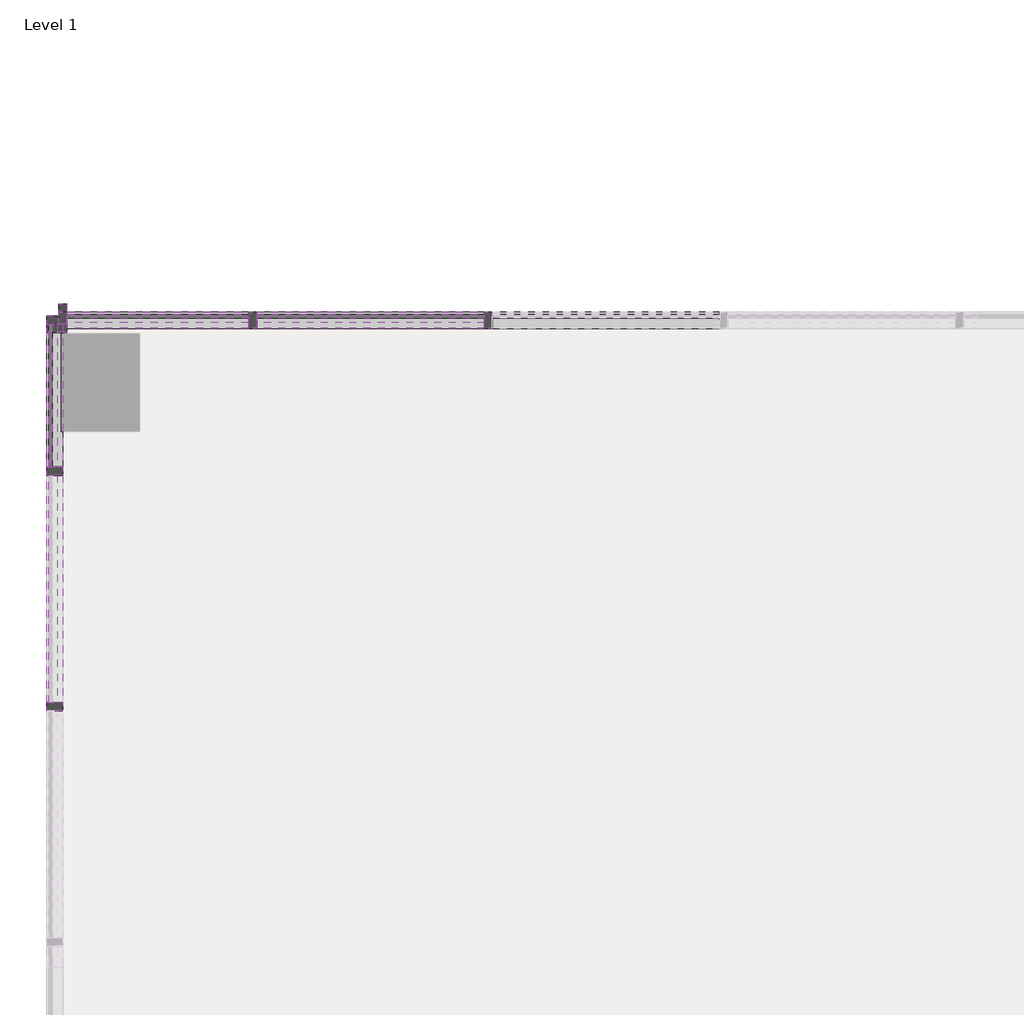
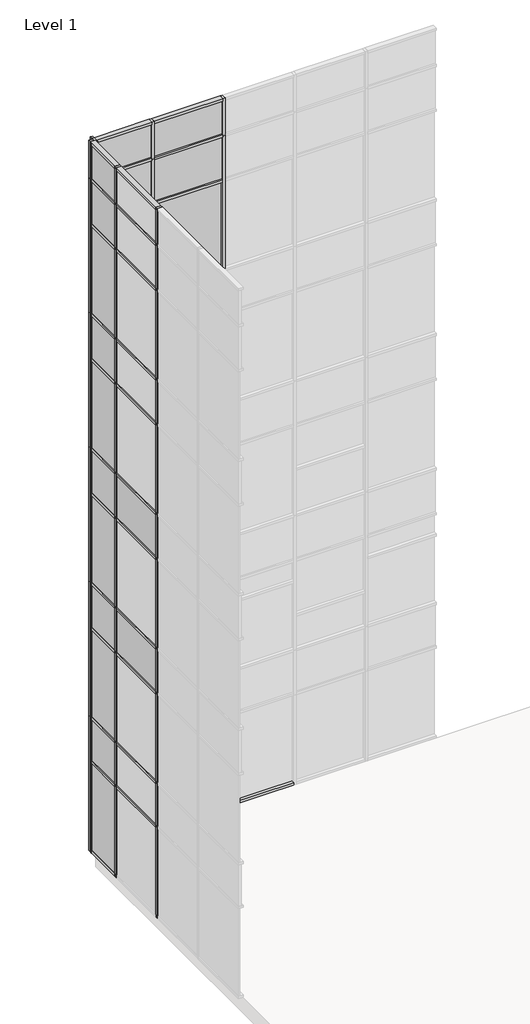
# One storey, part 10 of 23: 88 members, 36 plates.
"""IFC4 building model written with IfcOpenShell, lengths in millimetres."""

from ifc_helpers import new_model, si_unit, origin, place, context, project, spatial, transform, mapped, element, save
from components import member_2b49869a, member_f92b8aa2, member_810865a4, member_f0fea5a5, member_6d5c3e5e, member_9764dd38, member_8f908b75, member_14f14c38, member_365d1a59, member_cf99e2ad, member_69e02c7a, member_ea83204a, member_2d9278dd, member_12374bc9, system_panel_glazed_14c75400, system_panel_glazed_a91bc1ec, system_panel_glazed_125eecc7, system_panel_glazed_7d142148, system_panel_glazed_725bf07f, system_panel_solid_5dfe6f83, system_panel_solid_e25e2004, system_panel_solid_b7551183, system_panel_solid_d9ae02de, system_panel_solid_dc72b64a, system_panel_solid_d79d7947, system_panel_solid_0818f308, system_panel_solid_5afec38a, system_panel_solid_916aa2cc

model = new_model("IFC4")

# Units and contexts
model_context = context("Model", 3, world=origin())
ifc_project = project(units=[si_unit("LENGTHUNIT", "METRE", prefix="MILLI")], contexts=[model_context])

# Site, building, storey
site = spatial("IfcSite", under=ifc_project)
building = spatial("IfcBuilding", under=site)
storey = spatial("IfcBuildingStorey", under=building, Name="Level 1", Elevation=0.0)

# Members
placement = place(None, origin())
member_shape = member_2b49869a(model_context)
element("IfcMember", 1, ObjectType="Rectangular Mullion : 2.5\" x 5\" rectangular", at=placement, inside=storey, context=model_context, shape_type="MappedRepresentation", body=[
    mapped(member_shape, transform((-65358.2373649, 10017.7896508, 2438.4), x_axis=(1.0, 0.0, 0.0), y_axis=(0.0, -1.0, 0.0), z_axis=(0.0, 0.0, -1.0))),
])
element("IfcMember", 2, ObjectType="Rectangular Mullion : 2.5\" x 5\" rectangular", at=placement, inside=storey, context=model_context, shape_type="MappedRepresentation", body=[
    mapped(member_shape, transform((-67187.0373649, 10017.7896508, 2438.4), x_axis=(1.0, 0.0, 0.0), y_axis=(0.0, -1.0, 0.0), z_axis=(0.0, 0.0, -1.0))),
])
member_2_shape = member_f92b8aa2(model_context)
element("IfcMember", 3, ObjectType="Rectangular Mullion : 2.5\" x 5\" rectangular", at=placement, inside=storey, context=model_context, shape_type="MappedRepresentation", body=[
    mapped(member_2_shape, transform((-65358.2373649, 10017.7896508, 18288.0), x_axis=(1.0, 0.0, 0.0), y_axis=(0.0, -1.0, 0.0), z_axis=(0.0, 0.0, -1.0))),
])
element("IfcMember", 4, ObjectType="Rectangular Mullion : 2.5\" x 5\" rectangular", at=placement, inside=storey, context=model_context, shape_type="MappedRepresentation", body=[
    mapped(member_2_shape, transform((-67187.0373649, 10017.7896508, 18288.0), x_axis=(1.0, 0.0, 0.0), y_axis=(0.0, -1.0, 0.0), z_axis=(0.0, 0.0, -1.0))),
])
element("IfcMember", 5, ObjectType="Rectangular Mullion : 2.5\" x 5\" rectangular", at=placement, inside=storey, context=model_context, shape_type="MappedRepresentation", body=[
    mapped(member_2_shape, transform((-68724.2599961, 7017.4146508, 18288.0), x_axis=(0.0, 1.0, 0.0), y_axis=(1.0, 0.0, 0.0), z_axis=(0.0, 0.0, -1.0))),
])
element("IfcMember", 6, ObjectType="Rectangular Mullion : 2.5\" x 5\" rectangular", at=placement, inside=storey, context=model_context, shape_type="MappedRepresentation", body=[
    mapped(member_2_shape, transform((-68724.2599961, 8846.2146508, 18288.0), x_axis=(0.0, 1.0, 0.0), y_axis=(1.0, 0.0, 0.0), z_axis=(0.0, 0.0, -1.0))),
])
member_3_shape = member_810865a4(model_context)
element("IfcMember", 7, ObjectType="Rectangular Mullion : 2.5\" x 5\" rectangular", at=placement, inside=storey, context=model_context, shape_type="MappedRepresentation", body=[
    mapped(member_3_shape, transform((-65358.2373649, 10017.7896508, 14630.4), x_axis=(1.0, 0.0, 0.0), y_axis=(0.0, -1.0, 0.0), z_axis=(0.0, 0.0, -1.0))),
])
element("IfcMember", 8, ObjectType="Rectangular Mullion : 2.5\" x 5\" rectangular", at=placement, inside=storey, context=model_context, shape_type="MappedRepresentation", body=[
    mapped(member_3_shape, transform((-65358.2373649, 10017.7896508, 10972.8), x_axis=(1.0, 0.0, 0.0), y_axis=(0.0, -1.0, 0.0), z_axis=(0.0, 0.0, -1.0))),
])
element("IfcMember", 9, ObjectType="Rectangular Mullion : 2.5\" x 5\" rectangular", at=placement, inside=storey, context=model_context, shape_type="MappedRepresentation", body=[
    mapped(member_3_shape, transform((-65358.2373649, 10017.7896508, 7315.2), x_axis=(1.0, 0.0, 0.0), y_axis=(0.0, -1.0, 0.0), z_axis=(0.0, 0.0, -1.0))),
])
element("IfcMember", 10, ObjectType="Rectangular Mullion : 2.5\" x 5\" rectangular", at=placement, inside=storey, context=model_context, shape_type="MappedRepresentation", body=[
    mapped(member_3_shape, transform((-65358.2373649, 10017.7896508, 3657.6), x_axis=(1.0, 0.0, 0.0), y_axis=(0.0, -1.0, 0.0), z_axis=(0.0, 0.0, -1.0))),
])
element("IfcMember", 11, ObjectType="Rectangular Mullion : 2.5\" x 5\" rectangular", at=placement, inside=storey, context=model_context, shape_type="MappedRepresentation", body=[
    mapped(member_3_shape, transform((-67187.0373649, 10017.7896508, 14630.4), x_axis=(1.0, 0.0, 0.0), y_axis=(0.0, -1.0, 0.0), z_axis=(0.0, 0.0, -1.0))),
])
element("IfcMember", 12, ObjectType="Rectangular Mullion : 2.5\" x 5\" rectangular", at=placement, inside=storey, context=model_context, shape_type="MappedRepresentation", body=[
    mapped(member_3_shape, transform((-67187.0373649, 10017.7896508, 10972.8), x_axis=(1.0, 0.0, 0.0), y_axis=(0.0, -1.0, 0.0), z_axis=(0.0, 0.0, -1.0))),
])
element("IfcMember", 13, ObjectType="Rectangular Mullion : 2.5\" x 5\" rectangular", at=placement, inside=storey, context=model_context, shape_type="MappedRepresentation", body=[
    mapped(member_3_shape, transform((-67187.0373649, 10017.7896508, 7315.2), x_axis=(1.0, 0.0, 0.0), y_axis=(0.0, -1.0, 0.0), z_axis=(0.0, 0.0, -1.0))),
])
element("IfcMember", 14, ObjectType="Rectangular Mullion : 2.5\" x 5\" rectangular", at=placement, inside=storey, context=model_context, shape_type="MappedRepresentation", body=[
    mapped(member_3_shape, transform((-67187.0373649, 10017.7896508, 3657.6), x_axis=(1.0, 0.0, 0.0), y_axis=(0.0, -1.0, 0.0), z_axis=(0.0, 0.0, -1.0))),
])
element("IfcMember", 15, ObjectType="Rectangular Mullion : 2.5\" x 5\" rectangular", at=placement, inside=storey, context=model_context, shape_type="MappedRepresentation", body=[
    mapped(member_3_shape, transform((-68724.2599961, 7017.4146508, 3657.6), x_axis=(0.0, 1.0, 0.0), y_axis=(1.0, 0.0, 0.0), z_axis=(0.0, 0.0, -1.0))),
])
element("IfcMember", 16, ObjectType="Rectangular Mullion : 2.5\" x 5\" rectangular", at=placement, inside=storey, context=model_context, shape_type="MappedRepresentation", body=[
    mapped(member_3_shape, transform((-68724.2599961, 8846.2146508, 3657.6), x_axis=(0.0, 1.0, 0.0), y_axis=(1.0, 0.0, 0.0), z_axis=(0.0, 0.0, -1.0))),
])
element("IfcMember", 17, ObjectType="Rectangular Mullion : 2.5\" x 5\" rectangular", at=placement, inside=storey, context=model_context, shape_type="MappedRepresentation", body=[
    mapped(member_3_shape, transform((-68724.2599961, 7017.4146508, 7315.2), x_axis=(0.0, 1.0, 0.0), y_axis=(1.0, 0.0, 0.0), z_axis=(0.0, 0.0, -1.0))),
])
element("IfcMember", 18, ObjectType="Rectangular Mullion : 2.5\" x 5\" rectangular", at=placement, inside=storey, context=model_context, shape_type="MappedRepresentation", body=[
    mapped(member_3_shape, transform((-68724.2599961, 8846.2146508, 7315.2), x_axis=(0.0, 1.0, 0.0), y_axis=(1.0, 0.0, 0.0), z_axis=(0.0, 0.0, -1.0))),
])
element("IfcMember", 19, ObjectType="Rectangular Mullion : 2.5\" x 5\" rectangular", at=placement, inside=storey, context=model_context, shape_type="MappedRepresentation", body=[
    mapped(member_3_shape, transform((-68724.2599961, 7017.4146508, 10972.8), x_axis=(0.0, 1.0, 0.0), y_axis=(1.0, 0.0, 0.0), z_axis=(0.0, 0.0, -1.0))),
])
element("IfcMember", 20, ObjectType="Rectangular Mullion : 2.5\" x 5\" rectangular", at=placement, inside=storey, context=model_context, shape_type="MappedRepresentation", body=[
    mapped(member_3_shape, transform((-68724.2599961, 8846.2146508, 10972.8), x_axis=(0.0, 1.0, 0.0), y_axis=(1.0, 0.0, 0.0), z_axis=(0.0, 0.0, -1.0))),
])
element("IfcMember", 21, ObjectType="Rectangular Mullion : 2.5\" x 5\" rectangular", at=placement, inside=storey, context=model_context, shape_type="MappedRepresentation", body=[
    mapped(member_3_shape, transform((-68724.2599961, 7017.4146508, 14630.4), x_axis=(0.0, 1.0, 0.0), y_axis=(1.0, 0.0, 0.0), z_axis=(0.0, 0.0, -1.0))),
])
element("IfcMember", 22, ObjectType="Rectangular Mullion : 2.5\" x 5\" rectangular", at=placement, inside=storey, context=model_context, shape_type="MappedRepresentation", body=[
    mapped(member_3_shape, transform((-68724.2599961, 8846.2146508, 14630.4), x_axis=(0.0, 1.0, 0.0), y_axis=(1.0, 0.0, 0.0), z_axis=(0.0, 0.0, -1.0))),
])
member_4_shape = member_f0fea5a5(model_context)
element("IfcMember", 23, ObjectType="Rectangular Mullion : 2.5\" x 5\" rectangular", at=placement, inside=storey, context=model_context, shape_type="MappedRepresentation", body=[
    mapped(member_4_shape, transform((-65358.2373649, 10017.7896508, 0.0), x_axis=(1.0, 0.0, 0.0), y_axis=(0.0, -1.0, 0.0), z_axis=(0.0, 0.0, -1.0))),
])
element("IfcMember", 24, ObjectType="Rectangular Mullion : 2.5\" x 5\" rectangular", at=placement, inside=storey, context=model_context, shape_type="MappedRepresentation", body=[
    mapped(member_4_shape, transform((-67187.0373649, 10017.7896508, 0.0), x_axis=(1.0, 0.0, 0.0), y_axis=(0.0, -1.0, 0.0), z_axis=(0.0, 0.0, -1.0))),
])
member_5_shape = member_6d5c3e5e(model_context)
element("IfcMember", 25, ObjectType="Rectangular Mullion : 2.5\" x 5\" rectangular", at=placement, inside=storey, context=model_context, shape_type="MappedRepresentation", body=[
    mapped(member_5_shape, transform((-65389.9873649, 10017.7896508, 19304.0), x_axis=(0.0, 0.0, 1.0), y_axis=(0.0, -1.0, 0.0), z_axis=(1.0, 0.0, 0.0))),
])
element("IfcMember", 26, ObjectType="Rectangular Mullion : 2.5\" x 5\" rectangular", at=placement, inside=storey, context=model_context, shape_type="MappedRepresentation", body=[
    mapped(member_5_shape, transform((-68724.2599961, 8814.4646508, 19304.0), x_axis=(0.0, 0.0, 1.0), y_axis=(1.0, 0.0, 0.0), z_axis=(0.0, 1.0, 0.0))),
])
member_6_shape = member_9764dd38(model_context)
element("IfcMember", 27, ObjectType="Rectangular Mullion : 2.5\" x 5\" rectangular", at=placement, inside=storey, context=model_context, shape_type="MappedRepresentation", body=[
    mapped(member_6_shape, transform((-65389.9873649, 10017.7896508, 17068.8), x_axis=(0.0, 0.0, 1.0), y_axis=(0.0, -1.0, 0.0), z_axis=(1.0, 0.0, 0.0))),
])
element("IfcMember", 28, ObjectType="Rectangular Mullion : 2.5\" x 5\" rectangular", at=placement, inside=storey, context=model_context, shape_type="MappedRepresentation", body=[
    mapped(member_6_shape, transform((-65389.9873649, 10017.7896508, 13411.2), x_axis=(0.0, 0.0, 1.0), y_axis=(0.0, -1.0, 0.0), z_axis=(1.0, 0.0, 0.0))),
])
element("IfcMember", 29, ObjectType="Rectangular Mullion : 2.5\" x 5\" rectangular", at=placement, inside=storey, context=model_context, shape_type="MappedRepresentation", body=[
    mapped(member_6_shape, transform((-65389.9873649, 10017.7896508, 9753.6), x_axis=(0.0, 0.0, 1.0), y_axis=(0.0, -1.0, 0.0), z_axis=(1.0, 0.0, 0.0))),
])
element("IfcMember", 30, ObjectType="Rectangular Mullion : 2.5\" x 5\" rectangular", at=placement, inside=storey, context=model_context, shape_type="MappedRepresentation", body=[
    mapped(member_6_shape, transform((-65389.9873649, 10017.7896508, 6096.0), x_axis=(0.0, 0.0, 1.0), y_axis=(0.0, -1.0, 0.0), z_axis=(1.0, 0.0, 0.0))),
])
element("IfcMember", 31, ObjectType="Rectangular Mullion : 2.5\" x 5\" rectangular", at=placement, inside=storey, context=model_context, shape_type="MappedRepresentation", body=[
    mapped(member_6_shape, transform((-65389.9873649, 10017.7896508, 2470.15), x_axis=(0.0, 0.0, 1.0), y_axis=(0.0, -1.0, 0.0), z_axis=(1.0, 0.0, 0.0))),
])
element("IfcMember", 32, ObjectType="Rectangular Mullion : 2.5\" x 5\" rectangular", at=placement, inside=storey, context=model_context, shape_type="MappedRepresentation", body=[
    mapped(member_6_shape, transform((-68724.2599961, 8814.4646508, 17068.8), x_axis=(0.0, 0.0, 1.0), y_axis=(1.0, 0.0, 0.0), z_axis=(0.0, 1.0, 0.0))),
])
element("IfcMember", 33, ObjectType="Rectangular Mullion : 2.5\" x 5\" rectangular", at=placement, inside=storey, context=model_context, shape_type="MappedRepresentation", body=[
    mapped(member_6_shape, transform((-68724.2599961, 8814.4646508, 13411.2), x_axis=(0.0, 0.0, 1.0), y_axis=(1.0, 0.0, 0.0), z_axis=(0.0, 1.0, 0.0))),
])
element("IfcMember", 34, ObjectType="Rectangular Mullion : 2.5\" x 5\" rectangular", at=placement, inside=storey, context=model_context, shape_type="MappedRepresentation", body=[
    mapped(member_6_shape, transform((-68724.2599961, 8814.4646508, 9753.6), x_axis=(0.0, 0.0, 1.0), y_axis=(1.0, 0.0, 0.0), z_axis=(0.0, 1.0, 0.0))),
])
element("IfcMember", 35, ObjectType="Rectangular Mullion : 2.5\" x 5\" rectangular", at=placement, inside=storey, context=model_context, shape_type="MappedRepresentation", body=[
    mapped(member_6_shape, transform((-68724.2599961, 8814.4646508, 6096.0), x_axis=(0.0, 0.0, 1.0), y_axis=(1.0, 0.0, 0.0), z_axis=(0.0, 1.0, 0.0))),
])
element("IfcMember", 36, ObjectType="Rectangular Mullion : 2.5\" x 5\" rectangular", at=placement, inside=storey, context=model_context, shape_type="MappedRepresentation", body=[
    mapped(member_6_shape, transform((-68724.2599961, 8814.4646508, 2470.15), x_axis=(0.0, 0.0, 1.0), y_axis=(1.0, 0.0, 0.0), z_axis=(0.0, 1.0, 0.0))),
])
element("IfcMember", 37, ObjectType="Rectangular Mullion : 2.5\" x 5\" rectangular", at=placement, inside=storey, context=model_context, shape_type="MappedRepresentation", body=[
    mapped(member_6_shape, transform((-65389.9873649, 10017.7896508, 4603.75), x_axis=(0.0, 0.0, 1.0), y_axis=(0.0, -1.0, 0.0), z_axis=(1.0, 0.0, 0.0))),
])
element("IfcMember", 38, ObjectType="Rectangular Mullion : 2.5\" x 5\" rectangular", at=placement, inside=storey, context=model_context, shape_type="MappedRepresentation", body=[
    mapped(member_3_shape, transform((-68724.2599961, 7017.4146508, 0.0), x_axis=(0.0, 1.0, 0.0), y_axis=(1.0, 0.0, 0.0), z_axis=(0.0, 0.0, -1.0))),
])
element("IfcMember", 39, ObjectType="Rectangular Mullion : 2.5\" x 5\" rectangular", at=placement, inside=storey, context=model_context, shape_type="MappedRepresentation", body=[
    mapped(member_3_shape, transform((-68724.2599961, 8846.2146508, 0.0), x_axis=(0.0, 1.0, 0.0), y_axis=(1.0, 0.0, 0.0), z_axis=(0.0, 0.0, -1.0))),
])
member_7_shape = member_8f908b75(model_context)
element("IfcMember", 40, ObjectType="Rectangular Mullion : 2.5\" x 5\" rectangular", at=placement, inside=storey, context=model_context, shape_type="MappedRepresentation", body=[
    mapped(member_7_shape, transform((-67218.7873649, 10017.7896508, 19304.0), x_axis=(0.0, 0.0, 1.0), y_axis=(0.0, -1.0, 0.0), z_axis=(1.0, 0.0, 0.0))),
])
member_8_shape = member_14f14c38(model_context)
element("IfcMember", 41, ObjectType="Rectangular Mullion : 2.5\" x 5\" rectangular", at=placement, inside=storey, context=model_context, shape_type="MappedRepresentation", body=[
    mapped(member_8_shape, transform((-67218.7873649, 10017.7896508, 17068.8), x_axis=(0.0, 0.0, 1.0), y_axis=(0.0, -1.0, 0.0), z_axis=(1.0, 0.0, 0.0))),
])
element("IfcMember", 42, ObjectType="Rectangular Mullion : 2.5\" x 5\" rectangular", at=placement, inside=storey, context=model_context, shape_type="MappedRepresentation", body=[
    mapped(member_8_shape, transform((-67218.7873649, 10017.7896508, 13411.2), x_axis=(0.0, 0.0, 1.0), y_axis=(0.0, -1.0, 0.0), z_axis=(1.0, 0.0, 0.0))),
])
element("IfcMember", 43, ObjectType="Rectangular Mullion : 2.5\" x 5\" rectangular", at=placement, inside=storey, context=model_context, shape_type="MappedRepresentation", body=[
    mapped(member_8_shape, transform((-67218.7873649, 10017.7896508, 9753.6), x_axis=(0.0, 0.0, 1.0), y_axis=(0.0, -1.0, 0.0), z_axis=(1.0, 0.0, 0.0))),
])
element("IfcMember", 44, ObjectType="Rectangular Mullion : 2.5\" x 5\" rectangular", at=placement, inside=storey, context=model_context, shape_type="MappedRepresentation", body=[
    mapped(member_8_shape, transform((-67218.7873649, 10017.7896508, 6096.0), x_axis=(0.0, 0.0, 1.0), y_axis=(0.0, -1.0, 0.0), z_axis=(1.0, 0.0, 0.0))),
])
element("IfcMember", 45, ObjectType="Rectangular Mullion : 2.5\" x 5\" rectangular", at=placement, inside=storey, context=model_context, shape_type="MappedRepresentation", body=[
    mapped(member_8_shape, transform((-67218.7873649, 10017.7896508, 2470.15), x_axis=(0.0, 0.0, 1.0), y_axis=(0.0, -1.0, 0.0), z_axis=(1.0, 0.0, 0.0))),
])
member_9_shape = member_365d1a59(model_context)
element("IfcMember", 46, ObjectType="Rectangular Mullion : 2.5\" x 5\" rectangular", at=placement, inside=storey, context=model_context, shape_type="MappedRepresentation", body=[
    mapped(member_9_shape, transform((-68724.2599961, 9986.0396508, 19304.0), x_axis=(0.0, 0.0, 1.0), y_axis=(1.0, 0.0, 0.0), z_axis=(0.0, 1.0, 0.0))),
])
member_10_shape = member_cf99e2ad(model_context)
element("IfcMember", 47, ObjectType="Rectangular Mullion : 2.5\" x 5\" rectangular", at=placement, inside=storey, context=model_context, shape_type="MappedRepresentation", body=[
    mapped(member_10_shape, transform((-68724.2599961, 9986.0396508, 17068.8), x_axis=(0.0, 0.0, 1.0), y_axis=(1.0, 0.0, 0.0), z_axis=(0.0, 1.0, 0.0))),
])
element("IfcMember", 48, ObjectType="Rectangular Mullion : 2.5\" x 5\" rectangular", at=placement, inside=storey, context=model_context, shape_type="MappedRepresentation", body=[
    mapped(member_10_shape, transform((-68724.2599961, 9986.0396508, 13411.2), x_axis=(0.0, 0.0, 1.0), y_axis=(1.0, 0.0, 0.0), z_axis=(0.0, 1.0, 0.0))),
])
element("IfcMember", 49, ObjectType="Rectangular Mullion : 2.5\" x 5\" rectangular", at=placement, inside=storey, context=model_context, shape_type="MappedRepresentation", body=[
    mapped(member_10_shape, transform((-68724.2599961, 9986.0396508, 9753.6), x_axis=(0.0, 0.0, 1.0), y_axis=(1.0, 0.0, 0.0), z_axis=(0.0, 1.0, 0.0))),
])
element("IfcMember", 50, ObjectType="Rectangular Mullion : 2.5\" x 5\" rectangular", at=placement, inside=storey, context=model_context, shape_type="MappedRepresentation", body=[
    mapped(member_10_shape, transform((-68724.2599961, 9986.0396508, 6096.0), x_axis=(0.0, 0.0, 1.0), y_axis=(1.0, 0.0, 0.0), z_axis=(0.0, 1.0, 0.0))),
])
element("IfcMember", 51, ObjectType="Rectangular Mullion : 2.5\" x 5\" rectangular", at=placement, inside=storey, context=model_context, shape_type="MappedRepresentation", body=[
    mapped(member_10_shape, transform((-68724.2599961, 9986.0396508, 2470.15), x_axis=(0.0, 0.0, 1.0), y_axis=(1.0, 0.0, 0.0), z_axis=(0.0, 1.0, 0.0))),
])
element("IfcMember", 52, ObjectType="Rectangular Mullion : 2.5\" x 5\" rectangular", at=placement, inside=storey, context=model_context, shape_type="MappedRepresentation", body=[
    mapped(member_7_shape, transform((-68629.0099961, 10017.7896508, 0.0), x_axis=(0.0, 0.0, -1.0), y_axis=(0.0, -1.0, 0.0), z_axis=(-1.0, 0.0, 0.0))),
])
element("IfcMember", 53, ObjectType="Rectangular Mullion : 2.5\" x 5\" rectangular", at=placement, inside=storey, context=model_context, shape_type="MappedRepresentation", body=[
    mapped(member_5_shape, transform((-65326.4873649, 10017.7896508, 0.0), x_axis=(0.0, 0.0, -1.0), y_axis=(0.0, -1.0, 0.0), z_axis=(-1.0, 0.0, 0.0))),
])
element("IfcMember", 54, ObjectType="Rectangular Mullion : 2.5\" x 5\" rectangular", at=placement, inside=storey, context=model_context, shape_type="MappedRepresentation", body=[
    mapped(member_5_shape, transform((-67155.2873649, 10017.7896508, 0.0), x_axis=(0.0, 0.0, -1.0), y_axis=(0.0, -1.0, 0.0), z_axis=(-1.0, 0.0, 0.0))),
])
element("IfcMember", 55, ObjectType="Rectangular Mullion : 2.5\" x 5\" rectangular", at=placement, inside=storey, context=model_context, shape_type="MappedRepresentation", body=[
    mapped(member_9_shape, transform((-68724.2599961, 8877.9646508, 0.0), x_axis=(0.0, 0.0, -1.0), y_axis=(1.0, 0.0, 0.0), z_axis=(0.0, -1.0, 0.0))),
])
element("IfcMember", 56, ObjectType="Rectangular Mullion : 2.5\" x 5\" rectangular", at=placement, inside=storey, context=model_context, shape_type="MappedRepresentation", body=[
    mapped(member_6_shape, transform((-65389.9873649, 10017.7896508, 10972.8), x_axis=(0.0, 0.0, 1.0), y_axis=(0.0, -1.0, 0.0), z_axis=(1.0, 0.0, 0.0))),
])
element("IfcMember", 57, ObjectType="Rectangular Mullion : 2.5\" x 5\" rectangular", at=placement, inside=storey, context=model_context, shape_type="MappedRepresentation", body=[
    mapped(member_6_shape, transform((-65389.9873649, 10017.7896508, 7315.2), x_axis=(0.0, 0.0, 1.0), y_axis=(0.0, -1.0, 0.0), z_axis=(1.0, 0.0, 0.0))),
])
element("IfcMember", 58, ObjectType="Rectangular Mullion : 2.5\" x 5\" rectangular", at=placement, inside=storey, context=model_context, shape_type="MappedRepresentation", body=[
    mapped(member_6_shape, transform((-65389.9873649, 10017.7896508, 18288.0), x_axis=(0.0, 0.0, 1.0), y_axis=(0.0, -1.0, 0.0), z_axis=(1.0, 0.0, 0.0))),
])
element("IfcMember", 59, ObjectType="Rectangular Mullion : 2.5\" x 5\" rectangular", at=placement, inside=storey, context=model_context, shape_type="MappedRepresentation", body=[
    mapped(member_6_shape, transform((-65389.9873649, 10017.7896508, 14630.4), x_axis=(0.0, 0.0, 1.0), y_axis=(0.0, -1.0, 0.0), z_axis=(1.0, 0.0, 0.0))),
])
element("IfcMember", 60, ObjectType="Rectangular Mullion : 2.5\" x 5\" rectangular", at=placement, inside=storey, context=model_context, shape_type="MappedRepresentation", body=[
    mapped(member_6_shape, transform((-65389.9873649, 10017.7896508, 3657.6), x_axis=(0.0, 0.0, 1.0), y_axis=(0.0, -1.0, 0.0), z_axis=(1.0, 0.0, 0.0))),
])
element("IfcMember", 61, ObjectType="Rectangular Mullion : 2.5\" x 5\" rectangular", at=placement, inside=storey, context=model_context, shape_type="MappedRepresentation", body=[
    mapped(member_6_shape, transform((-68724.2599961, 8814.4646508, 3657.6), x_axis=(0.0, 0.0, 1.0), y_axis=(1.0, 0.0, 0.0), z_axis=(0.0, 1.0, 0.0))),
])
element("IfcMember", 62, ObjectType="Rectangular Mullion : 2.5\" x 5\" rectangular", at=placement, inside=storey, context=model_context, shape_type="MappedRepresentation", body=[
    mapped(member_6_shape, transform((-68724.2599961, 8814.4646508, 7315.2), x_axis=(0.0, 0.0, 1.0), y_axis=(1.0, 0.0, 0.0), z_axis=(0.0, 1.0, 0.0))),
])
element("IfcMember", 63, ObjectType="Rectangular Mullion : 2.5\" x 5\" rectangular", at=placement, inside=storey, context=model_context, shape_type="MappedRepresentation", body=[
    mapped(member_6_shape, transform((-68724.2599961, 8814.4646508, 10972.8), x_axis=(0.0, 0.0, 1.0), y_axis=(1.0, 0.0, 0.0), z_axis=(0.0, 1.0, 0.0))),
])
element("IfcMember", 64, ObjectType="Rectangular Mullion : 2.5\" x 5\" rectangular", at=placement, inside=storey, context=model_context, shape_type="MappedRepresentation", body=[
    mapped(member_6_shape, transform((-68724.2599961, 8814.4646508, 14630.4), x_axis=(0.0, 0.0, 1.0), y_axis=(1.0, 0.0, 0.0), z_axis=(0.0, 1.0, 0.0))),
])
element("IfcMember", 65, ObjectType="Rectangular Mullion : 2.5\" x 5\" rectangular", at=placement, inside=storey, context=model_context, shape_type="MappedRepresentation", body=[
    mapped(member_6_shape, transform((-68724.2599961, 8814.4646508, 18288.0), x_axis=(0.0, 0.0, 1.0), y_axis=(1.0, 0.0, 0.0), z_axis=(0.0, 1.0, 0.0))),
])
element("IfcMember", 66, ObjectType="Rectangular Mullion : 2.5\" x 5\" rectangular", at=placement, inside=storey, context=model_context, shape_type="MappedRepresentation", body=[
    mapped(member_8_shape, transform((-67218.7873649, 10017.7896508, 10972.8), x_axis=(0.0, 0.0, 1.0), y_axis=(0.0, -1.0, 0.0), z_axis=(1.0, 0.0, 0.0))),
])
element("IfcMember", 67, ObjectType="Rectangular Mullion : 2.5\" x 5\" rectangular", at=placement, inside=storey, context=model_context, shape_type="MappedRepresentation", body=[
    mapped(member_8_shape, transform((-67218.7873649, 10017.7896508, 14630.4), x_axis=(0.0, 0.0, 1.0), y_axis=(0.0, -1.0, 0.0), z_axis=(1.0, 0.0, 0.0))),
])
element("IfcMember", 68, ObjectType="Rectangular Mullion : 2.5\" x 5\" rectangular", at=placement, inside=storey, context=model_context, shape_type="MappedRepresentation", body=[
    mapped(member_8_shape, transform((-67218.7873649, 10017.7896508, 7315.2), x_axis=(0.0, 0.0, 1.0), y_axis=(0.0, -1.0, 0.0), z_axis=(1.0, 0.0, 0.0))),
])
element("IfcMember", 69, ObjectType="Rectangular Mullion : 2.5\" x 5\" rectangular", at=placement, inside=storey, context=model_context, shape_type="MappedRepresentation", body=[
    mapped(member_8_shape, transform((-67218.7873649, 10017.7896508, 18288.0), x_axis=(0.0, 0.0, 1.0), y_axis=(0.0, -1.0, 0.0), z_axis=(1.0, 0.0, 0.0))),
])
element("IfcMember", 70, ObjectType="Rectangular Mullion : 2.5\" x 5\" rectangular", at=placement, inside=storey, context=model_context, shape_type="MappedRepresentation", body=[
    mapped(member_8_shape, transform((-67218.7873649, 10017.7896508, 3657.6), x_axis=(0.0, 0.0, 1.0), y_axis=(0.0, -1.0, 0.0), z_axis=(1.0, 0.0, 0.0))),
])
element("IfcMember", 71, ObjectType="Rectangular Mullion : 2.5\" x 5\" rectangular", at=placement, inside=storey, context=model_context, shape_type="MappedRepresentation", body=[
    mapped(member_10_shape, transform((-68724.2599961, 9986.0396508, 3657.6), x_axis=(0.0, 0.0, 1.0), y_axis=(1.0, 0.0, 0.0), z_axis=(0.0, 1.0, 0.0))),
])
element("IfcMember", 72, ObjectType="Rectangular Mullion : 2.5\" x 5\" rectangular", at=placement, inside=storey, context=model_context, shape_type="MappedRepresentation", body=[
    mapped(member_10_shape, transform((-68724.2599961, 9986.0396508, 7315.2), x_axis=(0.0, 0.0, 1.0), y_axis=(1.0, 0.0, 0.0), z_axis=(0.0, 1.0, 0.0))),
])
element("IfcMember", 73, ObjectType="Rectangular Mullion : 2.5\" x 5\" rectangular", at=placement, inside=storey, context=model_context, shape_type="MappedRepresentation", body=[
    mapped(member_10_shape, transform((-68724.2599961, 9986.0396508, 10972.8), x_axis=(0.0, 0.0, 1.0), y_axis=(1.0, 0.0, 0.0), z_axis=(0.0, 1.0, 0.0))),
])
element("IfcMember", 74, ObjectType="Rectangular Mullion : 2.5\" x 5\" rectangular", at=placement, inside=storey, context=model_context, shape_type="MappedRepresentation", body=[
    mapped(member_10_shape, transform((-68724.2599961, 9986.0396508, 14630.4), x_axis=(0.0, 0.0, 1.0), y_axis=(1.0, 0.0, 0.0), z_axis=(0.0, 1.0, 0.0))),
])
element("IfcMember", 75, ObjectType="Rectangular Mullion : 2.5\" x 5\" rectangular", at=placement, inside=storey, context=model_context, shape_type="MappedRepresentation", body=[
    mapped(member_10_shape, transform((-68724.2599961, 9986.0396508, 18288.0), x_axis=(0.0, 0.0, 1.0), y_axis=(1.0, 0.0, 0.0), z_axis=(0.0, 1.0, 0.0))),
])
member_11_shape = member_69e02c7a(model_context)
element("IfcMember", 76, ObjectType="V Corner Mullion : 5\" V Corner", at=placement, inside=storey, context=model_context, shape_type="MappedRepresentation", body=[
    mapped(member_11_shape, transform((-68724.2599961, 10017.7896508, 19304.0), x_axis=(-1.0, 0.0, 0.0), y_axis=(0.0, -1.0, 0.0), z_axis=(0.0, 0.0, 1.0))),
])
member_12_shape = member_ea83204a(model_context)
element("IfcMember", 77, ObjectType="V Corner Mullion : 5\" V Corner", at=placement, inside=storey, context=model_context, shape_type="MappedRepresentation", body=[
    mapped(member_12_shape, transform((-68724.2599961, 10017.7896508, 2438.4), x_axis=(-1.0, 0.0, 0.0), y_axis=(0.0, -1.0, 0.0), z_axis=(0.0, 0.0, 1.0))),
])
member_13_shape = member_2d9278dd(model_context)
element("IfcMember", 78, ObjectType="V Corner Mullion : 5\" V Corner", at=placement, inside=storey, context=model_context, shape_type="MappedRepresentation", body=[
    mapped(member_13_shape, transform((-68724.2599961, 10017.7896508, 18288.0), x_axis=(-1.0, 0.0, 0.0), y_axis=(0.0, -1.0, 0.0), z_axis=(0.0, 0.0, 1.0))),
])
element("IfcMember", 79, ObjectType="V Corner Mullion : 5\" V Corner", at=placement, inside=storey, context=model_context, shape_type="MappedRepresentation", body=[
    mapped(member_13_shape, transform((-68724.2599961, 10017.7896508, 14630.4), x_axis=(-1.0, 0.0, 0.0), y_axis=(0.0, -1.0, 0.0), z_axis=(0.0, 0.0, 1.0))),
])
element("IfcMember", 80, ObjectType="V Corner Mullion : 5\" V Corner", at=placement, inside=storey, context=model_context, shape_type="MappedRepresentation", body=[
    mapped(member_13_shape, transform((-68724.2599961, 10017.7896508, 10972.8), x_axis=(-1.0, 0.0, 0.0), y_axis=(0.0, -1.0, 0.0), z_axis=(0.0, 0.0, 1.0))),
])
element("IfcMember", 81, ObjectType="V Corner Mullion : 5\" V Corner", at=placement, inside=storey, context=model_context, shape_type="MappedRepresentation", body=[
    mapped(member_13_shape, transform((-68724.2599961, 10017.7896508, 7315.2), x_axis=(-1.0, 0.0, 0.0), y_axis=(0.0, -1.0, 0.0), z_axis=(0.0, 0.0, 1.0))),
])
member_14_shape = member_12374bc9(model_context)
element("IfcMember", 82, ObjectType="V Corner Mullion : 5\" V Corner", at=placement, inside=storey, context=model_context, shape_type="MappedRepresentation", body=[
    mapped(member_14_shape, transform((-68724.2599961, 10017.7896508, 3657.6), x_axis=(-1.0, 0.0, 0.0), y_axis=(0.0, -1.0, 0.0), z_axis=(0.0, 0.0, 1.0))),
])
element("IfcMember", 83, ObjectType="V Corner Mullion : 5\" V Corner", at=placement, inside=storey, context=model_context, shape_type="MappedRepresentation", body=[
    mapped(member_13_shape, transform((-68724.2599961, 10081.2896508, 0.0), x_axis=(0.0, 1.0, 0.0), y_axis=(1.0, 0.0, 0.0), z_axis=(0.0, 0.0, -1.0))),
])
element("IfcMember", 84, ObjectType="V Corner Mullion : 5\" V Corner", at=placement, inside=storey, context=model_context, shape_type="MappedRepresentation", body=[
    mapped(member_13_shape, transform((-68724.2599961, 10081.2896508, 3657.6), x_axis=(0.0, 1.0, 0.0), y_axis=(1.0, 0.0, 0.0), z_axis=(0.0, 0.0, -1.0))),
])
element("IfcMember", 85, ObjectType="V Corner Mullion : 5\" V Corner", at=placement, inside=storey, context=model_context, shape_type="MappedRepresentation", body=[
    mapped(member_13_shape, transform((-68724.2599961, 10081.2896508, 7315.2), x_axis=(0.0, 1.0, 0.0), y_axis=(1.0, 0.0, 0.0), z_axis=(0.0, 0.0, -1.0))),
])
element("IfcMember", 86, ObjectType="V Corner Mullion : 5\" V Corner", at=placement, inside=storey, context=model_context, shape_type="MappedRepresentation", body=[
    mapped(member_13_shape, transform((-68724.2599961, 10081.2896508, 10972.8), x_axis=(0.0, 1.0, 0.0), y_axis=(1.0, 0.0, 0.0), z_axis=(0.0, 0.0, -1.0))),
])
element("IfcMember", 87, ObjectType="V Corner Mullion : 5\" V Corner", at=placement, inside=storey, context=model_context, shape_type="MappedRepresentation", body=[
    mapped(member_13_shape, transform((-68724.2599961, 10081.2896508, 14630.4), x_axis=(0.0, 1.0, 0.0), y_axis=(1.0, 0.0, 0.0), z_axis=(0.0, 0.0, -1.0))),
])
element("IfcMember", 88, ObjectType="V Corner Mullion : 5\" V Corner", at=placement, inside=storey, context=model_context, shape_type="MappedRepresentation", body=[
    mapped(member_11_shape, transform((-68724.2599961, 10081.2896508, 18288.0), x_axis=(0.0, 1.0, 0.0), y_axis=(1.0, 0.0, 0.0), z_axis=(0.0, 0.0, -1.0))),
])

# Plates
system_panel_glazed_shape = system_panel_glazed_14c75400(model_context)
element("IfcPlate", 89, ObjectType="System Panel : Glazed", at=placement, inside=storey, context=model_context, shape_type="MappedRepresentation", body=[
    mapped(system_panel_glazed_shape, transform((-66272.6373649, 10017.7896508, 14662.15), x_axis=(1.0, 0.0, 0.0), y_axis=(0.0, 1.0, 0.0), z_axis=(0.0, 0.0, 1.0))),
])
element("IfcPlate", 90, ObjectType="System Panel : Glazed", at=placement, inside=storey, context=model_context, shape_type="MappedRepresentation", body=[
    mapped(system_panel_glazed_shape, transform((-66272.6373649, 10017.7896508, 11004.55), x_axis=(1.0, 0.0, 0.0), y_axis=(0.0, 1.0, 0.0), z_axis=(0.0, 0.0, 1.0))),
])
element("IfcPlate", 91, ObjectType="System Panel : Glazed", at=placement, inside=storey, context=model_context, shape_type="MappedRepresentation", body=[
    mapped(system_panel_glazed_shape, transform((-66272.6373649, 10017.7896508, 7346.95), x_axis=(1.0, 0.0, 0.0), y_axis=(0.0, 1.0, 0.0), z_axis=(0.0, 0.0, 1.0))),
])
element("IfcPlate", 92, ObjectType="System Panel : Glazed", at=placement, inside=storey, context=model_context, shape_type="MappedRepresentation", body=[
    mapped(system_panel_glazed_shape, transform((-66272.6373649, 10017.7896508, 63.5), x_axis=(1.0, 0.0, 0.0), y_axis=(0.0, 1.0, 0.0), z_axis=(0.0, 0.0, 1.0))),
])
system_panel_glazed_2_shape = system_panel_glazed_a91bc1ec(model_context)
element("IfcPlate", 93, ObjectType="System Panel : Glazed", at=placement, inside=storey, context=model_context, shape_type="MappedRepresentation", body=[
    mapped(system_panel_glazed_2_shape, transform((-67923.8986805, 10017.7896508, 14662.15), x_axis=(1.0, 0.0, 0.0), y_axis=(0.0, 1.0, 0.0), z_axis=(0.0, 0.0, 1.0))),
])
element("IfcPlate", 94, ObjectType="System Panel : Glazed", at=placement, inside=storey, context=model_context, shape_type="MappedRepresentation", body=[
    mapped(system_panel_glazed_2_shape, transform((-67923.8986805, 10017.7896508, 11004.55), x_axis=(1.0, 0.0, 0.0), y_axis=(0.0, 1.0, 0.0), z_axis=(0.0, 0.0, 1.0))),
])
element("IfcPlate", 95, ObjectType="System Panel : Glazed", at=placement, inside=storey, context=model_context, shape_type="MappedRepresentation", body=[
    mapped(system_panel_glazed_2_shape, transform((-67923.8986805, 10017.7896508, 7346.95), x_axis=(1.0, 0.0, 0.0), y_axis=(0.0, 1.0, 0.0), z_axis=(0.0, 0.0, 1.0))),
])
element("IfcPlate", 96, ObjectType="System Panel : Glazed", at=placement, inside=storey, context=model_context, shape_type="MappedRepresentation", body=[
    mapped(system_panel_glazed_2_shape, transform((-67923.8986805, 10017.7896508, 3689.35), x_axis=(1.0, 0.0, 0.0), y_axis=(0.0, 1.0, 0.0), z_axis=(0.0, 0.0, 1.0))),
])
element("IfcPlate", 97, ObjectType="System Panel : Glazed", at=placement, inside=storey, context=model_context, shape_type="MappedRepresentation", body=[
    mapped(system_panel_glazed_2_shape, transform((-67923.8986805, 10017.7896508, 63.5), x_axis=(1.0, 0.0, 0.0), y_axis=(0.0, 1.0, 0.0), z_axis=(0.0, 0.0, 1.0))),
])
system_panel_glazed_3_shape = system_panel_glazed_125eecc7(model_context)
element("IfcPlate", 98, ObjectType="System Panel : Glazed", at=placement, inside=storey, context=model_context, shape_type="MappedRepresentation", body=[
    mapped(system_panel_glazed_3_shape, transform((-68724.2599961, 9432.0021508, 14662.15), x_axis=(0.0, 1.0, 0.0), y_axis=(-1.0, 0.0, 0.0), z_axis=(0.0, 0.0, 1.0))),
])
element("IfcPlate", 99, ObjectType="System Panel : Glazed", at=placement, inside=storey, context=model_context, shape_type="MappedRepresentation", body=[
    mapped(system_panel_glazed_3_shape, transform((-68724.2599961, 9432.0021508, 11004.55), x_axis=(0.0, 1.0, 0.0), y_axis=(-1.0, 0.0, 0.0), z_axis=(0.0, 0.0, 1.0))),
])
element("IfcPlate", 100, ObjectType="System Panel : Glazed", at=placement, inside=storey, context=model_context, shape_type="MappedRepresentation", body=[
    mapped(system_panel_glazed_3_shape, transform((-68724.2599961, 9432.0021508, 7346.95), x_axis=(0.0, 1.0, 0.0), y_axis=(-1.0, 0.0, 0.0), z_axis=(0.0, 0.0, 1.0))),
])
element("IfcPlate", 101, ObjectType="System Panel : Glazed", at=placement, inside=storey, context=model_context, shape_type="MappedRepresentation", body=[
    mapped(system_panel_glazed_3_shape, transform((-68724.2599961, 9432.0021508, 3689.35), x_axis=(0.0, 1.0, 0.0), y_axis=(-1.0, 0.0, 0.0), z_axis=(0.0, 0.0, 1.0))),
])
element("IfcPlate", 102, ObjectType="System Panel : Glazed", at=placement, inside=storey, context=model_context, shape_type="MappedRepresentation", body=[
    mapped(system_panel_glazed_3_shape, transform((-68724.2599961, 9432.0021508, 63.5), x_axis=(0.0, 1.0, 0.0), y_axis=(-1.0, 0.0, 0.0), z_axis=(0.0, 0.0, 1.0))),
])
system_panel_glazed_4_shape = system_panel_glazed_7d142148(model_context)
element("IfcPlate", 103, ObjectType="System Panel : Glazed", at=placement, inside=storey, context=model_context, shape_type="MappedRepresentation", body=[
    mapped(system_panel_glazed_4_shape, transform((-66272.6373649, 10017.7896508, 3689.35), x_axis=(1.0, 0.0, 0.0), y_axis=(0.0, 1.0, 0.0), z_axis=(0.0, 0.0, 1.0))),
])
system_panel_glazed_5_shape = system_panel_glazed_725bf07f(model_context)
element("IfcPlate", 104, ObjectType="System Panel : Glazed", at=placement, inside=storey, context=model_context, shape_type="MappedRepresentation", body=[
    mapped(system_panel_glazed_5_shape, transform((-66272.6373649, 10017.7896508, 4635.5), x_axis=(1.0, 0.0, 0.0), y_axis=(0.0, 1.0, 0.0), z_axis=(0.0, 0.0, 1.0))),
])
system_panel_solid_shape = system_panel_solid_5dfe6f83(model_context)
element("IfcPlate", 105, ObjectType="System Panel : Solid", at=placement, inside=storey, context=model_context, shape_type="MappedRepresentation", body=[
    mapped(system_panel_solid_shape, transform((-66272.6373649, 10017.7896508, 18319.75), x_axis=(1.0, 0.0, 0.0), y_axis=(0.0, 1.0, 0.0), z_axis=(0.0, 0.0, 1.0))),
])
system_panel_solid_2_shape = system_panel_solid_e25e2004(model_context)
element("IfcPlate", 106, ObjectType="System Panel : Solid", at=placement, inside=storey, context=model_context, shape_type="MappedRepresentation", body=[
    mapped(system_panel_solid_2_shape, transform((-66272.6373649, 10017.7896508, 17100.55), x_axis=(1.0, 0.0, 0.0), y_axis=(0.0, 1.0, 0.0), z_axis=(0.0, 0.0, 1.0))),
])
element("IfcPlate", 107, ObjectType="System Panel : Solid", at=placement, inside=storey, context=model_context, shape_type="MappedRepresentation", body=[
    mapped(system_panel_solid_2_shape, transform((-66272.6373649, 10017.7896508, 13442.95), x_axis=(1.0, 0.0, 0.0), y_axis=(0.0, 1.0, 0.0), z_axis=(0.0, 0.0, 1.0))),
])
element("IfcPlate", 108, ObjectType="System Panel : Solid", at=placement, inside=storey, context=model_context, shape_type="MappedRepresentation", body=[
    mapped(system_panel_solid_2_shape, transform((-66272.6373649, 10017.7896508, 9785.35), x_axis=(1.0, 0.0, 0.0), y_axis=(0.0, 1.0, 0.0), z_axis=(0.0, 0.0, 1.0))),
])
element("IfcPlate", 109, ObjectType="System Panel : Solid", at=placement, inside=storey, context=model_context, shape_type="MappedRepresentation", body=[
    mapped(system_panel_solid_2_shape, transform((-66272.6373649, 10017.7896508, 6127.75), x_axis=(1.0, 0.0, 0.0), y_axis=(0.0, 1.0, 0.0), z_axis=(0.0, 0.0, 1.0))),
])
element("IfcPlate", 110, ObjectType="System Panel : Solid", at=placement, inside=storey, context=model_context, shape_type="MappedRepresentation", body=[
    mapped(system_panel_solid_2_shape, transform((-68724.2599961, 7931.8146508, 9785.35), x_axis=(0.0, 1.0, 0.0), y_axis=(-1.0, 0.0, 0.0), z_axis=(0.0, 0.0, 1.0))),
])
element("IfcPlate", 111, ObjectType="System Panel : Solid", at=placement, inside=storey, context=model_context, shape_type="MappedRepresentation", body=[
    mapped(system_panel_solid_2_shape, transform((-68724.2599961, 7931.8146508, 6127.75), x_axis=(0.0, 1.0, 0.0), y_axis=(-1.0, 0.0, 0.0), z_axis=(0.0, 0.0, 1.0))),
])
system_panel_solid_3_shape = system_panel_solid_b7551183(model_context)
element("IfcPlate", 112, ObjectType="System Panel : Solid", at=placement, inside=storey, context=model_context, shape_type="MappedRepresentation", body=[
    mapped(system_panel_solid_3_shape, transform((-66272.6373649, 10017.7896508, 2501.9), x_axis=(1.0, 0.0, 0.0), y_axis=(0.0, 1.0, 0.0), z_axis=(0.0, 0.0, 1.0))),
])
system_panel_solid_4_shape = system_panel_solid_d9ae02de(model_context)
element("IfcPlate", 113, ObjectType="System Panel : Solid", at=placement, inside=storey, context=model_context, shape_type="MappedRepresentation", body=[
    mapped(system_panel_solid_4_shape, transform((-67923.8986805, 10017.7896508, 18319.75), x_axis=(1.0, 0.0, 0.0), y_axis=(0.0, 1.0, 0.0), z_axis=(0.0, 0.0, 1.0))),
])
system_panel_solid_5_shape = system_panel_solid_dc72b64a(model_context)
element("IfcPlate", 114, ObjectType="System Panel : Solid", at=placement, inside=storey, context=model_context, shape_type="MappedRepresentation", body=[
    mapped(system_panel_solid_5_shape, transform((-67923.8986805, 10017.7896508, 17100.55), x_axis=(1.0, 0.0, 0.0), y_axis=(0.0, 1.0, 0.0), z_axis=(0.0, 0.0, 1.0))),
])
element("IfcPlate", 115, ObjectType="System Panel : Solid", at=placement, inside=storey, context=model_context, shape_type="MappedRepresentation", body=[
    mapped(system_panel_solid_5_shape, transform((-67923.8986805, 10017.7896508, 13442.95), x_axis=(1.0, 0.0, 0.0), y_axis=(0.0, 1.0, 0.0), z_axis=(0.0, 0.0, 1.0))),
])
element("IfcPlate", 116, ObjectType="System Panel : Solid", at=placement, inside=storey, context=model_context, shape_type="MappedRepresentation", body=[
    mapped(system_panel_solid_5_shape, transform((-67923.8986805, 10017.7896508, 9785.35), x_axis=(1.0, 0.0, 0.0), y_axis=(0.0, 1.0, 0.0), z_axis=(0.0, 0.0, 1.0))),
])
element("IfcPlate", 117, ObjectType="System Panel : Solid", at=placement, inside=storey, context=model_context, shape_type="MappedRepresentation", body=[
    mapped(system_panel_solid_5_shape, transform((-67923.8986805, 10017.7896508, 6127.75), x_axis=(1.0, 0.0, 0.0), y_axis=(0.0, 1.0, 0.0), z_axis=(0.0, 0.0, 1.0))),
])
system_panel_solid_6_shape = system_panel_solid_d79d7947(model_context)
element("IfcPlate", 118, ObjectType="System Panel : Solid", at=placement, inside=storey, context=model_context, shape_type="MappedRepresentation", body=[
    mapped(system_panel_solid_6_shape, transform((-67923.8986805, 10017.7896508, 2501.9), x_axis=(1.0, 0.0, 0.0), y_axis=(0.0, 1.0, 0.0), z_axis=(0.0, 0.0, 1.0))),
])
system_panel_solid_7_shape = system_panel_solid_0818f308(model_context)
element("IfcPlate", 119, ObjectType="System Panel : Solid", at=placement, inside=storey, context=model_context, shape_type="MappedRepresentation", body=[
    mapped(system_panel_solid_7_shape, transform((-68724.2599961, 9432.0021508, 18319.75), x_axis=(0.0, 1.0, 0.0), y_axis=(-1.0, 0.0, 0.0), z_axis=(0.0, 0.0, 1.0))),
])
system_panel_solid_8_shape = system_panel_solid_5afec38a(model_context)
element("IfcPlate", 120, ObjectType="System Panel : Solid", at=placement, inside=storey, context=model_context, shape_type="MappedRepresentation", body=[
    mapped(system_panel_solid_8_shape, transform((-68724.2599961, 9432.0021508, 17100.55), x_axis=(0.0, 1.0, 0.0), y_axis=(-1.0, 0.0, 0.0), z_axis=(0.0, 0.0, 1.0))),
])
element("IfcPlate", 121, ObjectType="System Panel : Solid", at=placement, inside=storey, context=model_context, shape_type="MappedRepresentation", body=[
    mapped(system_panel_solid_8_shape, transform((-68724.2599961, 9432.0021508, 13442.95), x_axis=(0.0, 1.0, 0.0), y_axis=(-1.0, 0.0, 0.0), z_axis=(0.0, 0.0, 1.0))),
])
element("IfcPlate", 122, ObjectType="System Panel : Solid", at=placement, inside=storey, context=model_context, shape_type="MappedRepresentation", body=[
    mapped(system_panel_solid_8_shape, transform((-68724.2599961, 9432.0021508, 9785.35), x_axis=(0.0, 1.0, 0.0), y_axis=(-1.0, 0.0, 0.0), z_axis=(0.0, 0.0, 1.0))),
])
element("IfcPlate", 123, ObjectType="System Panel : Solid", at=placement, inside=storey, context=model_context, shape_type="MappedRepresentation", body=[
    mapped(system_panel_solid_8_shape, transform((-68724.2599961, 9432.0021508, 6127.75), x_axis=(0.0, 1.0, 0.0), y_axis=(-1.0, 0.0, 0.0), z_axis=(0.0, 0.0, 1.0))),
])
system_panel_solid_9_shape = system_panel_solid_916aa2cc(model_context)
element("IfcPlate", 124, ObjectType="System Panel : Solid", at=placement, inside=storey, context=model_context, shape_type="MappedRepresentation", body=[
    mapped(system_panel_solid_9_shape, transform((-68724.2599961, 9432.0021508, 2501.9), x_axis=(0.0, 1.0, 0.0), y_axis=(-1.0, 0.0, 0.0), z_axis=(0.0, 0.0, 1.0))),
])

save(model, "model.ifc")
